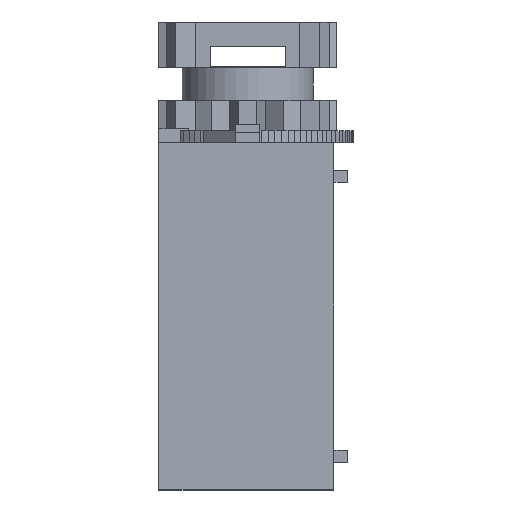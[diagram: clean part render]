
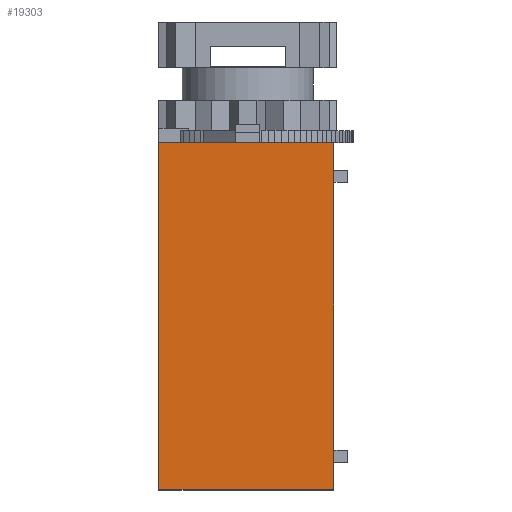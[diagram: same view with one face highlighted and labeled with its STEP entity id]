
A CAD part, top view. The second image highlights one B-rep face of the part: STEP entity #19303.
In plain terms, the highlighted planar face has unit normal (0, 0, 1).
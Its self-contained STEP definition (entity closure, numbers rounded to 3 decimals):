
#44 = PLANE('',#45);
#45 = AXIS2_PLACEMENT_3D('',#46,#47,#48);
#46 = CARTESIAN_POINT('',(-6.752,0.,0.));
#47 = DIRECTION('',(1.,0.,0.));
#48 = DIRECTION('',(0.,1.,0.));
#72 = PLANE('',#73);
#73 = AXIS2_PLACEMENT_3D('',#74,#75,#76);
#74 = CARTESIAN_POINT('',(-6.752,-17.1,14.5));
#75 = DIRECTION('',(-0.,1.,0.));
#76 = DIRECTION('',(0.,0.,-1.));
#218 = VERTEX_POINT('',#219);
#219 = CARTESIAN_POINT('',(-6.752,-17.1,14.5));
#240 = EDGE_CURVE('',#241,#218,#243,.T.);
#241 = VERTEX_POINT('',#242);
#242 = CARTESIAN_POINT('',(10.5,-17.1,14.5));
#243 = SURFACE_CURVE('',#244,(#248,#255),.PCURVE_S1.);
#244 = LINE('',#245,#246);
#245 = CARTESIAN_POINT('',(10.5,-17.1,14.5));
#246 = VECTOR('',#247,1.);
#247 = DIRECTION('',(-1.,0.,0.));
#248 = PCURVE('',#72,#249);
#249 = DEFINITIONAL_REPRESENTATION('',(#250),#254);
#250 = LINE('',#251,#252);
#251 = CARTESIAN_POINT('',(0.,-17.252));
#252 = VECTOR('',#253,1.);
#253 = DIRECTION('',(0.,1.));
#254 = ( GEOMETRIC_REPRESENTATION_CONTEXT(2) 
PARAMETRIC_REPRESENTATION_CONTEXT() REPRESENTATION_CONTEXT('2D SPACE',''
  ) );
#255 = PCURVE('',#256,#261);
#256 = PLANE('',#257);
#257 = AXIS2_PLACEMENT_3D('',#258,#259,#260);
#258 = CARTESIAN_POINT('',(-6.752,17.1,14.5));
#259 = DIRECTION('',(0.,0.,-1.));
#260 = DIRECTION('',(0.,-1.,0.));
#261 = DEFINITIONAL_REPRESENTATION('',(#262),#266);
#262 = LINE('',#263,#264);
#263 = CARTESIAN_POINT('',(34.2,-17.252));
#264 = VECTOR('',#265,1.);
#265 = DIRECTION('',(0.,1.));
#266 = ( GEOMETRIC_REPRESENTATION_CONTEXT(2) 
PARAMETRIC_REPRESENTATION_CONTEXT() REPRESENTATION_CONTEXT('2D SPACE',''
  ) );
#284 = PLANE('',#285);
#285 = AXIS2_PLACEMENT_3D('',#286,#287,#288);
#286 = CARTESIAN_POINT('',(10.5,-17.1,-14.5));
#287 = DIRECTION('',(1.,0.,-0.));
#288 = DIRECTION('',(0.,0.,1.));
#15712 = PLANE('',#15713);
#15713 = AXIS2_PLACEMENT_3D('',#15714,#15715,#15716);
#15714 = CARTESIAN_POINT('',(-6.752,17.1,-14.5));
#15715 = DIRECTION('',(0.,-1.,0.));
#15716 = DIRECTION('',(0.,0.,1.));
#15749 = VERTEX_POINT('',#15750);
#15750 = CARTESIAN_POINT('',(10.5,17.1,14.5));
#15773 = EDGE_CURVE('',#15749,#15774,#15776,.T.);
#15774 = VERTEX_POINT('',#15775);
#15775 = CARTESIAN_POINT('',(-6.752,17.1,14.5));
#15776 = SURFACE_CURVE('',#15777,(#15781,#15788),.PCURVE_S1.);
#15777 = LINE('',#15778,#15779);
#15778 = CARTESIAN_POINT('',(10.5,17.1,14.5));
#15779 = VECTOR('',#15780,1.);
#15780 = DIRECTION('',(-1.,0.,0.));
#15781 = PCURVE('',#15712,#15782);
#15782 = DEFINITIONAL_REPRESENTATION('',(#15783),#15787);
#15783 = LINE('',#15784,#15785);
#15784 = CARTESIAN_POINT('',(29.,-17.252));
#15785 = VECTOR('',#15786,1.);
#15786 = DIRECTION('',(0.,1.));
#15787 = ( GEOMETRIC_REPRESENTATION_CONTEXT(2) 
PARAMETRIC_REPRESENTATION_CONTEXT() REPRESENTATION_CONTEXT('2D SPACE',''
  ) );
#15788 = PCURVE('',#256,#15789);
#15789 = DEFINITIONAL_REPRESENTATION('',(#15790),#15794);
#15790 = LINE('',#15791,#15792);
#15791 = CARTESIAN_POINT('',(0.,-17.252));
#15792 = VECTOR('',#15793,1.);
#15793 = DIRECTION('',(0.,1.));
#15794 = ( GEOMETRIC_REPRESENTATION_CONTEXT(2) 
PARAMETRIC_REPRESENTATION_CONTEXT() REPRESENTATION_CONTEXT('2D SPACE',''
  ) );
#19283 = EDGE_CURVE('',#15749,#241,#19284,.T.);
#19284 = SURFACE_CURVE('',#19285,(#19289,#19296),.PCURVE_S1.);
#19285 = LINE('',#19286,#19287);
#19286 = CARTESIAN_POINT('',(10.5,17.1,14.5));
#19287 = VECTOR('',#19288,1.);
#19288 = DIRECTION('',(0.,-1.,0.));
#19289 = PCURVE('',#284,#19290);
#19290 = DEFINITIONAL_REPRESENTATION('',(#19291),#19295);
#19291 = LINE('',#19292,#19293);
#19292 = CARTESIAN_POINT('',(29.,-34.2));
#19293 = VECTOR('',#19294,1.);
#19294 = DIRECTION('',(0.,1.));
#19295 = ( GEOMETRIC_REPRESENTATION_CONTEXT(2) 
PARAMETRIC_REPRESENTATION_CONTEXT() REPRESENTATION_CONTEXT('2D SPACE',''
  ) );
#19296 = PCURVE('',#256,#19297);
#19297 = DEFINITIONAL_REPRESENTATION('',(#19298),#19302);
#19298 = LINE('',#19299,#19300);
#19299 = CARTESIAN_POINT('',(0.,-17.252));
#19300 = VECTOR('',#19301,1.);
#19301 = DIRECTION('',(1.,0.));
#19302 = ( GEOMETRIC_REPRESENTATION_CONTEXT(2) 
PARAMETRIC_REPRESENTATION_CONTEXT() REPRESENTATION_CONTEXT('2D SPACE',''
  ) );
#19303 = ADVANCED_FACE('',(#19304),#256,.F.);
#19304 = FACE_BOUND('',#19305,.F.);
#19305 = EDGE_LOOP('',(#19306,#19327,#19328,#19329));
#19306 = ORIENTED_EDGE('',*,*,#19307,.T.);
#19307 = EDGE_CURVE('',#218,#15774,#19308,.T.);
#19308 = SURFACE_CURVE('',#19309,(#19313,#19320),.PCURVE_S1.);
#19309 = LINE('',#19310,#19311);
#19310 = CARTESIAN_POINT('',(-6.752,-17.1,14.5));
#19311 = VECTOR('',#19312,1.);
#19312 = DIRECTION('',(0.,1.,0.));
#19313 = PCURVE('',#256,#19314);
#19314 = DEFINITIONAL_REPRESENTATION('',(#19315),#19319);
#19315 = LINE('',#19316,#19317);
#19316 = CARTESIAN_POINT('',(34.2,0.));
#19317 = VECTOR('',#19318,1.);
#19318 = DIRECTION('',(-1.,0.));
#19319 = ( GEOMETRIC_REPRESENTATION_CONTEXT(2) 
PARAMETRIC_REPRESENTATION_CONTEXT() REPRESENTATION_CONTEXT('2D SPACE',''
  ) );
#19320 = PCURVE('',#44,#19321);
#19321 = DEFINITIONAL_REPRESENTATION('',(#19322),#19326);
#19322 = LINE('',#19323,#19324);
#19323 = CARTESIAN_POINT('',(-17.1,14.5));
#19324 = VECTOR('',#19325,1.);
#19325 = DIRECTION('',(1.,0.));
#19326 = ( GEOMETRIC_REPRESENTATION_CONTEXT(2) 
PARAMETRIC_REPRESENTATION_CONTEXT() REPRESENTATION_CONTEXT('2D SPACE',''
  ) );
#19327 = ORIENTED_EDGE('',*,*,#15773,.F.);
#19328 = ORIENTED_EDGE('',*,*,#19283,.T.);
#19329 = ORIENTED_EDGE('',*,*,#240,.T.);
